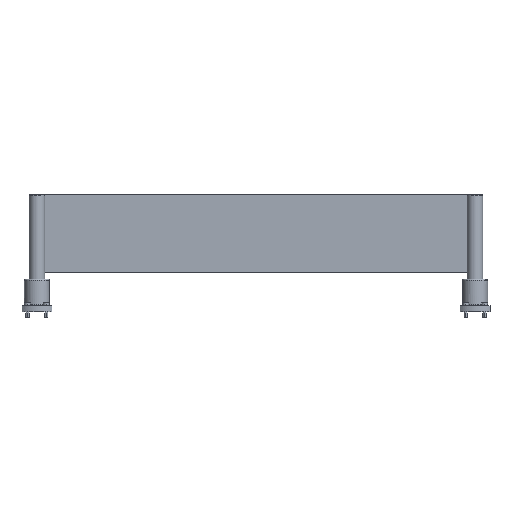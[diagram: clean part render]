
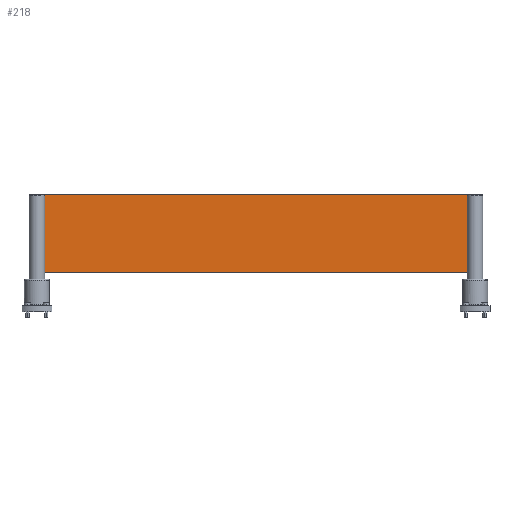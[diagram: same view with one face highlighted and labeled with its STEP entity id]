
A CAD part, left-side view. The second image highlights one B-rep face of the part: STEP entity #218.
In plain terms, the highlighted planar face has unit normal (-1, 0, 0) as drawn and (0, 1, 0) by its records, which use the part's own axes.
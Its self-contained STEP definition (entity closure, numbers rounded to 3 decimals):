
#49=CARTESIAN_POINT('Vertex',(277.75,10.,40.)) ;
#65=CARTESIAN_POINT('Vertex',(282.25,10.,40.)) ;
#68=CARTESIAN_POINT('Axis2P3D Location',(280.,10.,40.)) ;
#80=CARTESIAN_POINT('Axis2P3D Location',(0.,10.,0.)) ;
#85=CARTESIAN_POINT('Line Origine',(0.,10.,50.)) ;
#89=CARTESIAN_POINT('Vertex',(-290.,10.,50.)) ;
#91=CARTESIAN_POINT('Vertex',(290.,10.,50.)) ;
#94=CARTESIAN_POINT('Line Origine',(290.,10.,0.)) ;
#98=CARTESIAN_POINT('Vertex',(290.,10.,-50.)) ;
#101=CARTESIAN_POINT('Line Origine',(0.,10.,-50.)) ;
#105=CARTESIAN_POINT('Vertex',(-290.,10.,-50.)) ;
#108=CARTESIAN_POINT('Line Origine',(-290.,10.,0.)) ;
#119=CARTESIAN_POINT('Axis2P3D Location',(280.,10.,0.)) ;
#123=CARTESIAN_POINT('Vertex',(277.75,10.,0.)) ;
#125=CARTESIAN_POINT('Vertex',(282.25,10.,0.)) ;
#128=CARTESIAN_POINT('Axis2P3D Location',(280.,10.,0.)) ;
#137=CARTESIAN_POINT('Axis2P3D Location',(280.,10.,40.)) ;
#146=CARTESIAN_POINT('Axis2P3D Location',(280.,10.,-40.)) ;
#150=CARTESIAN_POINT('Vertex',(277.75,10.,-40.)) ;
#152=CARTESIAN_POINT('Vertex',(282.25,10.,-40.)) ;
#155=CARTESIAN_POINT('Axis2P3D Location',(280.,10.,-40.)) ;
#164=CARTESIAN_POINT('Axis2P3D Location',(-280.,10.,40.)) ;
#168=CARTESIAN_POINT('Vertex',(-282.25,10.,40.)) ;
#170=CARTESIAN_POINT('Vertex',(-277.75,10.,40.)) ;
#173=CARTESIAN_POINT('Axis2P3D Location',(-280.,10.,40.)) ;
#182=CARTESIAN_POINT('Axis2P3D Location',(-280.,10.,0.)) ;
#186=CARTESIAN_POINT('Vertex',(-282.25,10.,0.)) ;
#188=CARTESIAN_POINT('Vertex',(-277.75,10.,0.)) ;
#191=CARTESIAN_POINT('Axis2P3D Location',(-280.,10.,0.)) ;
#200=CARTESIAN_POINT('Axis2P3D Location',(-280.,10.,-40.)) ;
#204=CARTESIAN_POINT('Vertex',(-282.25,10.,-40.)) ;
#206=CARTESIAN_POINT('Vertex',(-277.75,10.,-40.)) ;
#209=CARTESIAN_POINT('Axis2P3D Location',(-280.,10.,-40.)) ;
#87=VECTOR('Line Direction',#86,1.) ;
#96=VECTOR('Line Direction',#95,1.) ;
#103=VECTOR('Line Direction',#102,1.) ;
#110=VECTOR('Line Direction',#109,1.) ;
#69=DIRECTION('Axis2P3D Direction',(-0.,1.,0.)) ;
#81=DIRECTION('Axis2P3D Direction',(0.,1.,-0.)) ;
#82=DIRECTION('Axis2P3D XDirection',(-1.,0.,0.)) ;
#86=DIRECTION('Vector Direction',(-1.,0.,0.)) ;
#95=DIRECTION('Vector Direction',(0.,0.,1.)) ;
#102=DIRECTION('Vector Direction',(1.,0.,0.)) ;
#109=DIRECTION('Vector Direction',(0.,0.,-1.)) ;
#120=DIRECTION('Axis2P3D Direction',(0.,1.,-0.)) ;
#129=DIRECTION('Axis2P3D Direction',(0.,1.,-0.)) ;
#138=DIRECTION('Axis2P3D Direction',(0.,1.,-0.)) ;
#147=DIRECTION('Axis2P3D Direction',(0.,1.,-0.)) ;
#156=DIRECTION('Axis2P3D Direction',(0.,1.,-0.)) ;
#165=DIRECTION('Axis2P3D Direction',(0.,1.,-0.)) ;
#174=DIRECTION('Axis2P3D Direction',(0.,1.,-0.)) ;
#183=DIRECTION('Axis2P3D Direction',(0.,1.,-0.)) ;
#192=DIRECTION('Axis2P3D Direction',(0.,1.,-0.)) ;
#201=DIRECTION('Axis2P3D Direction',(0.,1.,-0.)) ;
#210=DIRECTION('Axis2P3D Direction',(0.,1.,-0.)) ;
#70=AXIS2_PLACEMENT_3D('Circle Axis2P3D',#68,#69,$) ;
#83=AXIS2_PLACEMENT_3D('Plane Axis2P3D',#80,#81,#82) ;
#121=AXIS2_PLACEMENT_3D('Circle Axis2P3D',#119,#120,$) ;
#130=AXIS2_PLACEMENT_3D('Circle Axis2P3D',#128,#129,$) ;
#139=AXIS2_PLACEMENT_3D('Circle Axis2P3D',#137,#138,$) ;
#148=AXIS2_PLACEMENT_3D('Circle Axis2P3D',#146,#147,$) ;
#157=AXIS2_PLACEMENT_3D('Circle Axis2P3D',#155,#156,$) ;
#166=AXIS2_PLACEMENT_3D('Circle Axis2P3D',#164,#165,$) ;
#175=AXIS2_PLACEMENT_3D('Circle Axis2P3D',#173,#174,$) ;
#184=AXIS2_PLACEMENT_3D('Circle Axis2P3D',#182,#183,$) ;
#193=AXIS2_PLACEMENT_3D('Circle Axis2P3D',#191,#192,$) ;
#202=AXIS2_PLACEMENT_3D('Circle Axis2P3D',#200,#201,$) ;
#211=AXIS2_PLACEMENT_3D('Circle Axis2P3D',#209,#210,$) ;
#88=LINE('Line',#85,#87) ;
#97=LINE('Line',#94,#96) ;
#104=LINE('Line',#101,#103) ;
#111=LINE('Line',#108,#110) ;
#71=CIRCLE('generated circle',#70,2.25) ;
#122=CIRCLE('generated circle',#121,2.25) ;
#131=CIRCLE('generated circle',#130,2.25) ;
#140=CIRCLE('generated circle',#139,2.25) ;
#149=CIRCLE('generated circle',#148,2.25) ;
#158=CIRCLE('generated circle',#157,2.25) ;
#167=CIRCLE('generated circle',#166,2.25) ;
#176=CIRCLE('generated circle',#175,2.25) ;
#185=CIRCLE('generated circle',#184,2.25) ;
#194=CIRCLE('generated circle',#193,2.25) ;
#203=CIRCLE('generated circle',#202,2.25) ;
#212=CIRCLE('generated circle',#211,2.25) ;
#84=PLANE('',#83) ;
#136=FACE_BOUND('',#133,.T.) ;
#145=FACE_BOUND('',#142,.T.) ;
#163=FACE_BOUND('',#160,.T.) ;
#181=FACE_BOUND('',#178,.T.) ;
#199=FACE_BOUND('',#196,.T.) ;
#217=FACE_BOUND('',#214,.T.) ;
#72=EDGE_CURVE('',#66,#50,#71,.T.) ;
#93=EDGE_CURVE('',#90,#92,#88,.F.) ;
#100=EDGE_CURVE('',#92,#99,#97,.F.) ;
#107=EDGE_CURVE('',#99,#106,#104,.F.) ;
#112=EDGE_CURVE('',#106,#90,#111,.F.) ;
#127=EDGE_CURVE('',#124,#126,#122,.T.) ;
#132=EDGE_CURVE('',#126,#124,#131,.T.) ;
#141=EDGE_CURVE('',#50,#66,#140,.T.) ;
#154=EDGE_CURVE('',#151,#153,#149,.T.) ;
#159=EDGE_CURVE('',#153,#151,#158,.T.) ;
#172=EDGE_CURVE('',#169,#171,#167,.T.) ;
#177=EDGE_CURVE('',#171,#169,#176,.T.) ;
#190=EDGE_CURVE('',#187,#189,#185,.T.) ;
#195=EDGE_CURVE('',#189,#187,#194,.T.) ;
#208=EDGE_CURVE('',#205,#207,#203,.T.) ;
#213=EDGE_CURVE('',#207,#205,#212,.T.) ;
#113=EDGE_LOOP('',(#114,#115,#116,#117)) ;
#133=EDGE_LOOP('',(#134,#135)) ;
#142=EDGE_LOOP('',(#143,#144)) ;
#160=EDGE_LOOP('',(#161,#162)) ;
#178=EDGE_LOOP('',(#179,#180)) ;
#196=EDGE_LOOP('',(#197,#198)) ;
#214=EDGE_LOOP('',(#215,#216)) ;
#114=ORIENTED_EDGE('',*,*,#93,.T.) ;
#115=ORIENTED_EDGE('',*,*,#100,.T.) ;
#116=ORIENTED_EDGE('',*,*,#107,.T.) ;
#117=ORIENTED_EDGE('',*,*,#112,.T.) ;
#134=ORIENTED_EDGE('',*,*,#127,.F.) ;
#135=ORIENTED_EDGE('',*,*,#132,.F.) ;
#143=ORIENTED_EDGE('',*,*,#72,.F.) ;
#144=ORIENTED_EDGE('',*,*,#141,.F.) ;
#161=ORIENTED_EDGE('',*,*,#154,.F.) ;
#162=ORIENTED_EDGE('',*,*,#159,.F.) ;
#179=ORIENTED_EDGE('',*,*,#172,.F.) ;
#180=ORIENTED_EDGE('',*,*,#177,.F.) ;
#197=ORIENTED_EDGE('',*,*,#190,.F.) ;
#198=ORIENTED_EDGE('',*,*,#195,.F.) ;
#215=ORIENTED_EDGE('',*,*,#208,.F.) ;
#216=ORIENTED_EDGE('',*,*,#213,.F.) ;
#50=VERTEX_POINT('',#49) ;
#66=VERTEX_POINT('',#65) ;
#90=VERTEX_POINT('',#89) ;
#92=VERTEX_POINT('',#91) ;
#99=VERTEX_POINT('',#98) ;
#106=VERTEX_POINT('',#105) ;
#124=VERTEX_POINT('',#123) ;
#126=VERTEX_POINT('',#125) ;
#151=VERTEX_POINT('',#150) ;
#153=VERTEX_POINT('',#152) ;
#169=VERTEX_POINT('',#168) ;
#171=VERTEX_POINT('',#170) ;
#187=VERTEX_POINT('',#186) ;
#189=VERTEX_POINT('',#188) ;
#205=VERTEX_POINT('',#204) ;
#207=VERTEX_POINT('',#206) ;
#218=ADVANCED_FACE('PartBody',(#118,#136,#145,#163,#181,#199,#217),#84,.T.) ;
#118=FACE_OUTER_BOUND('',#113,.T.) ;
